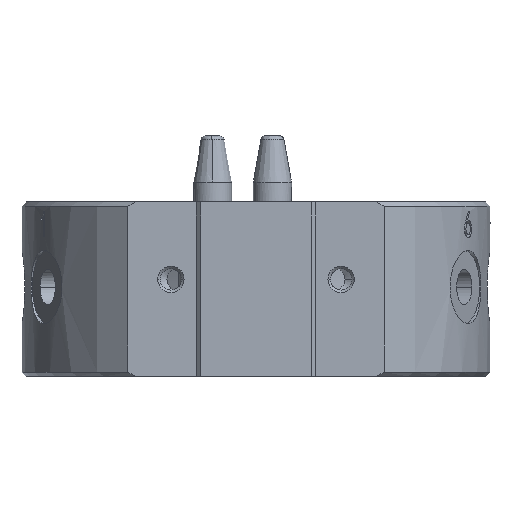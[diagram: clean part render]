
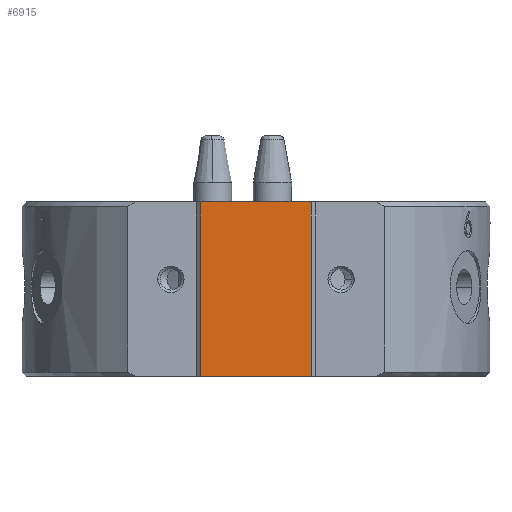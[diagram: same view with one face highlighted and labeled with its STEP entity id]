
A CAD part, front view. The second image highlights one B-rep face of the part: STEP entity #6915.
In plain terms, the highlighted planar face has unit normal (0, -1, 0).
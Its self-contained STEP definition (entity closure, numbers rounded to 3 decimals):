
#1 = DIRECTION ( 'NONE',  ( -1., 0., 0. ) ) ;
#154 = LINE ( 'NONE', #2830, #8780 ) ;
#181 = ORIENTED_EDGE ( 'NONE', *, *, #8944, .F. ) ;
#381 = VERTEX_POINT ( 'NONE', #7406 ) ;
#636 = LINE ( 'NONE', #5359, #8311 ) ;
#1152 = VECTOR ( 'NONE', #9253, 1000. ) ;
#1223 = LINE ( 'NONE', #10445, #1152 ) ;
#1304 = VECTOR ( 'NONE', #3754, 1000. ) ;
#1348 = LINE ( 'NONE', #3672, #1304 ) ;
#1664 = ORIENTED_EDGE ( 'NONE', *, *, #12398, .F. ) ;
#1789 = VERTEX_POINT ( 'NONE', #10040 ) ;
#2085 = DIRECTION ( 'NONE',  ( 0., 1., 0. ) ) ;
#2352 = CARTESIAN_POINT ( 'NONE',  ( 6.5, -24.6, 0. ) ) ;
#2742 = DIRECTION ( 'NONE',  ( 1., 0., 0. ) ) ;
#2830 = CARTESIAN_POINT ( 'NONE',  ( 0., -24.6, 0. ) ) ;
#3672 = CARTESIAN_POINT ( 'NONE',  ( 0., -24.6, -20.5 ) ) ;
#3754 = DIRECTION ( 'NONE',  ( 1., 0., 0. ) ) ;
#4795 = AXIS2_PLACEMENT_3D ( 'NONE', #10412, #2085, #1 ) ;
#5316 = CARTESIAN_POINT ( 'NONE',  ( -6.5, -24.6, -20.5 ) ) ;
#5320 = DIRECTION ( 'NONE',  ( 0., 0., -1. ) ) ;
#5359 = CARTESIAN_POINT ( 'NONE',  ( 6.5, -24.6, -20.5 ) ) ;
#5412 = FACE_OUTER_BOUND ( 'NONE', #10601, .T. ) ;
#6915 = ADVANCED_FACE ( 'NONE', ( #5412 ), #10452, .F. ) ;
#7406 = CARTESIAN_POINT ( 'NONE',  ( -6.5, -24.6, 0. ) ) ;
#8128 = VERTEX_POINT ( 'NONE', #2352 ) ;
#8311 = VECTOR ( 'NONE', #5320, 1000. ) ;
#8780 = VECTOR ( 'NONE', #2742, 1000. ) ;
#8871 = EDGE_CURVE ( 'NONE', #10637, #1789, #1348, .T. ) ;
#8944 = EDGE_CURVE ( 'NONE', #10637, #381, #1223, .T. ) ;
#9253 = DIRECTION ( 'NONE',  ( 0., 0., 1. ) ) ;
#9397 = ORIENTED_EDGE ( 'NONE', *, *, #8871, .T. ) ;
#9588 = EDGE_CURVE ( 'NONE', #381, #8128, #154, .T. ) ;
#10040 = CARTESIAN_POINT ( 'NONE',  ( 6.5, -24.6, -20.5 ) ) ;
#10412 = CARTESIAN_POINT ( 'NONE',  ( -7., -24.6, -20.5 ) ) ;
#10445 = CARTESIAN_POINT ( 'NONE',  ( -6.5, -24.6, -20.5 ) ) ;
#10452 = PLANE ( 'NONE',  #4795 ) ;
#10601 = EDGE_LOOP ( 'NONE', ( #1664, #11226, #181, #9397 ) ) ;
#10637 = VERTEX_POINT ( 'NONE', #5316 ) ;
#11226 = ORIENTED_EDGE ( 'NONE', *, *, #9588, .F. ) ;
#12398 = EDGE_CURVE ( 'NONE', #8128, #1789, #636, .T. ) ;
